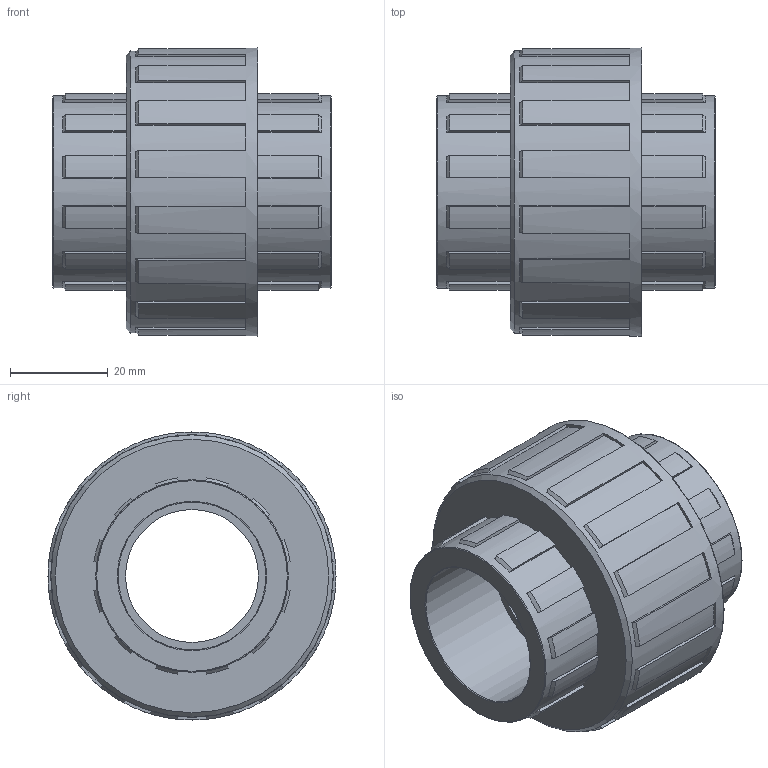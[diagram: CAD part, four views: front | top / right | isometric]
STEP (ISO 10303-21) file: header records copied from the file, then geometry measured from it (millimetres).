
FILE_DESCRIPTION(/* description */ ('PLASSON THR.UNION+O RING PVC 1"'),/* implementation_level */ '2;1');
FILE_NAME(/* name */ 'C:\Dropbox\KIMPROJECTS-Inventor\99-16-3568-Processing\PVC Catalog 2017\050801\050801010.ipt.stp',/* time_stamp */ '2017-12-07T15:58:04+02:00',/* author */ ('KIM'),/* organization */ (''),/* preprocessor_version */ 'ST-DEVELOPER v15.6',/* originating_system */ 'Autodesk Inventor 2015',/* authorisation */ '');
FILE_SCHEMA (('AUTOMOTIVE_DESIGN { 1 0 10303 214 3 1 1 }'));
Length unit declared in the file: millimetre
Products named in the file (1): 050801010
Bounding box: 57 x 59 x 59 mm (x, y, z)
Volume: 70904.6 mm3; surface area: 18852.3 mm2
Topology: 1 solids, 1 shells, 179 faces, 513 edges, 340 vertices
Faces by surface type: plane 102, cone 41, cylinder 31, torus 5
Full cylindrical faces by diameter (mm): 27.262 x1, 30.291 x2, 39.372 x2, 57.82 x1, 59 x1
Entity records: 5822 total; most frequent: DIRECTION 1032, CARTESIAN_POINT 1012, ORIENTED_EDGE 992, EDGE_CURVE 496, AXIS2_PLACEMENT_3D 356, VERTEX_POINT 336, LINE 320, VECTOR 320
